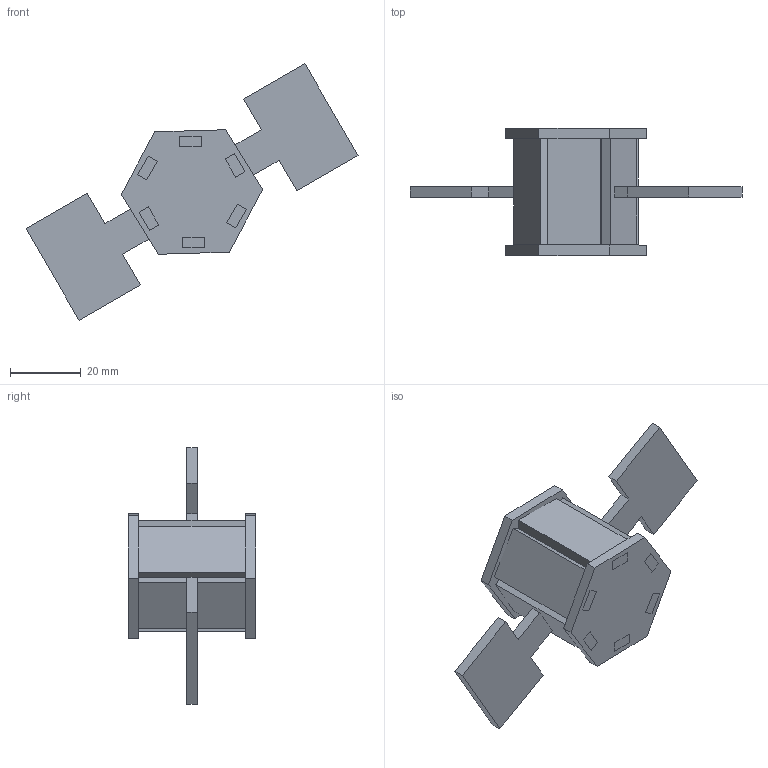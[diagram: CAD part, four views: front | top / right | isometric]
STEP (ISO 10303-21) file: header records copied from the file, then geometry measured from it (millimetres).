
FILE_DESCRIPTION(/* description */ (''),/* implementation_level */ '2;1');
FILE_NAME(/* name */ 'ParametricSetiliteDesign.step',/* time_stamp */ '2026-04-23T18:05:56+03:00',/* author */ (''),/* organization */ (''),/* preprocessor_version */ 'ST-DEVELOPER v20.1',/* originating_system */ 'Autodesk Translation Framework v14.24.0.0',/* authorisation */ '');
FILE_SCHEMA (('AUTOMOTIVE_DESIGN { 1 0 10303 214 3 1 1 }'));
Length unit declared in the file: millimetre
Products named in the file (5): 2026-03-25-13-54-13-246; 2026-03-25-13-26-19-886; 2026-03-25-13-47-20-194; 2026-03-25-13-26-19-886_1; 2026-03-25-13-26-19-886_2
Assembly tree (11 placements, depth 2):
  2026-03-25-13-54-13-246
    2026-03-25-13-26-19-886  x5
    2026-03-25-13-47-20-194  x2
    2026-03-25-13-26-19-886_1  x2
    2026-03-25-13-26-19-886_2  x2
Bounding box: 93.92 x 36 x 72.54 mm (x, y, z)
Volume: 19993.4 mm3; surface area: 17702.9 mm2
Topology: 11 solids, 11 shells, 198 faces, 528 edges, 352 vertices
Faces by surface type: plane 198
Entity records: 2627 total; most frequent: CARTESIAN_POINT 444, ORIENTED_EDGE 420, DIRECTION 398, LINE 210, VECTOR 210, EDGE_CURVE 210, VERTEX_POINT 140, AXIS2_PLACEMENT_3D 94
